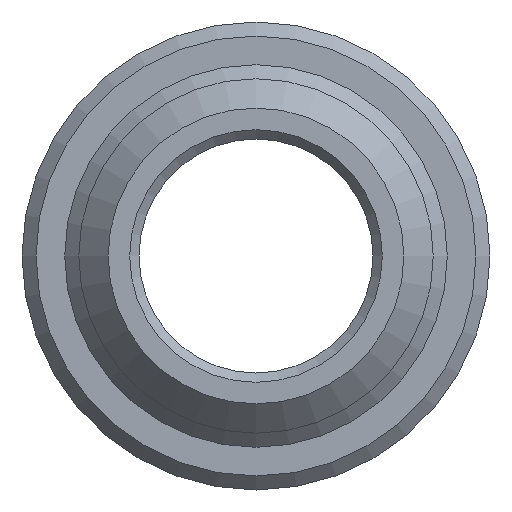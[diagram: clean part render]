
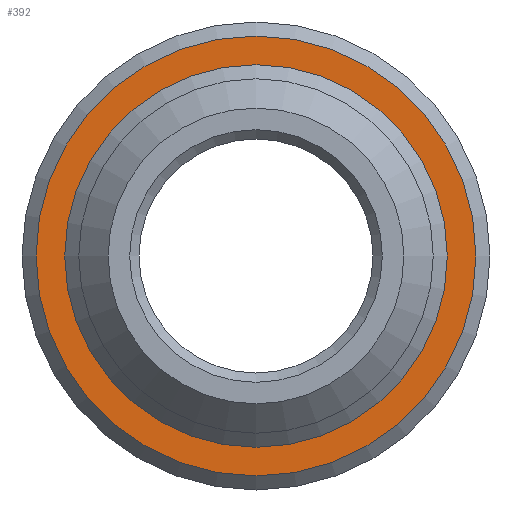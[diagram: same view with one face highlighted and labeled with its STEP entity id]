
A CAD part, front view. The second image highlights one B-rep face of the part: STEP entity #392.
In plain terms, the highlighted planar face has unit normal (0, -1, 0).
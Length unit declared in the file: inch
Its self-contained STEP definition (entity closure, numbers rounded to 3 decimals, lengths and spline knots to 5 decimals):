
#33=FACE_BOUND('',#86,.T.);
#44=PLANE('',#443);
#60=FACE_OUTER_BOUND('',#85,.T.);
#85=EDGE_LOOP('',(#316));
#86=EDGE_LOOP('',(#317));
#158=CIRCLE('',#442,0.20439);
#159=CIRCLE('',#444,0.235);
#195=VERTEX_POINT('',#678);
#196=VERTEX_POINT('',#682);
#243=EDGE_CURVE('',#195,#195,#158,.T.);
#244=EDGE_CURVE('',#196,#196,#159,.T.);
#316=ORIENTED_EDGE('',*,*,#244,.F.);
#317=ORIENTED_EDGE('',*,*,#243,.F.);
#392=ADVANCED_FACE('',(#60,#33),#44,.T.);
#442=AXIS2_PLACEMENT_3D('',#680,#536,#537);
#443=AXIS2_PLACEMENT_3D('',#681,#538,#539);
#444=AXIS2_PLACEMENT_3D('',#683,#540,#541);
#536=DIRECTION('center_axis',(0.,-1.,0.));
#537=DIRECTION('ref_axis',(0.,0.,-1.));
#538=DIRECTION('center_axis',(0.,-1.,0.));
#539=DIRECTION('ref_axis',(0.,0.,-1.));
#540=DIRECTION('center_axis',(0.,1.,0.));
#541=DIRECTION('ref_axis',(0.,0.,1.));
#678=CARTESIAN_POINT('',(0.,3.25,0.20439));
#680=CARTESIAN_POINT('Origin',(0.,3.25,0.));
#681=CARTESIAN_POINT('Origin',(0.,3.25,-0.203));
#682=CARTESIAN_POINT('',(0.,3.25,-0.235));
#683=CARTESIAN_POINT('Origin',(0.,3.25,0.));
